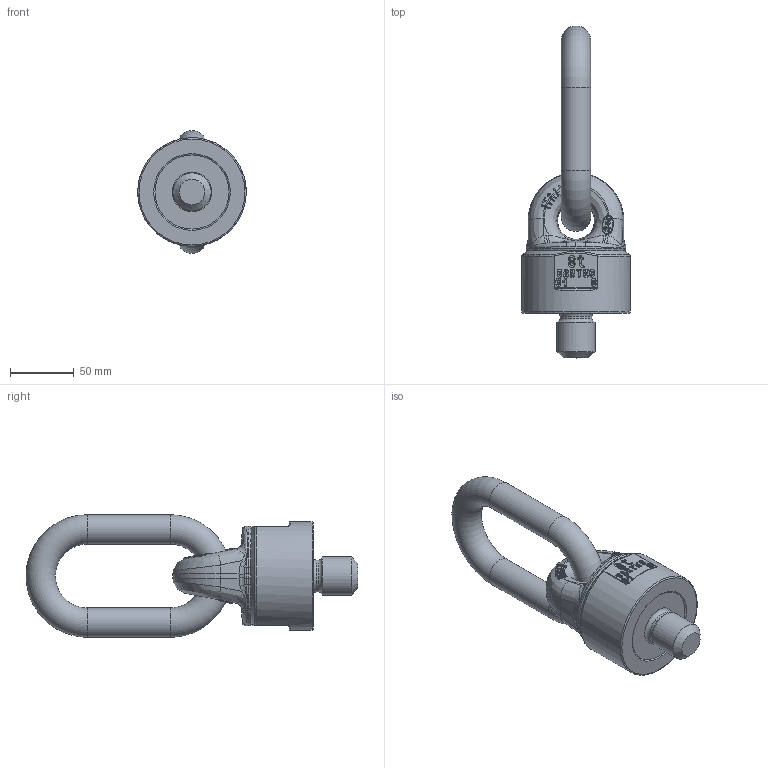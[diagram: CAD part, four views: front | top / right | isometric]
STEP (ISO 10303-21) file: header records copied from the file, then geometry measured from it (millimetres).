
FILE_DESCRIPTION(/* description */ (''),/* implementation_level */ '2;1');
FILE_NAME(/* name */ 'C8000803035V.stp',/* time_stamp */ '2019-02-15T08:50:46+01:00',/* author */ (''),/* organization */ (''),/* preprocessor_version */ 'ST-DEVELOPER v16',/* originating_system */ 'SIEMENS PLM Software NX 11.0',/* authorisation */ '');
FILE_SCHEMA (('AUTOMOTIVE_DESIGN { 1 0 10303 214 3 1 1 1 }'));
Length unit declared in the file: millimetre
Products named in the file (1): ugii0F54C622yhwu
Bounding box: 85 x 259.98 x 96 mm (x, y, z)
Volume: 554792.3 mm3; surface area: 72676.1 mm2
Topology: 3 solids, 3 shells, 784 faces, 2258 edges, 1709 vertices
Faces by surface type: bspline 268, cylinder 233, plane 214, torus 35, sphere 27, cone 7
Full cylindrical faces by diameter (mm): 23 x2, 25 x1, 29 x1, 30 x1, 85 x1
Entity records: 38686 total; most frequent: CARTESIAN_POINT 21064, ORIENTED_EDGE 3782, DIRECTION 2762, EDGE_CURVE 1891, VERTEX_POINT 1144, AXIS2_PLACEMENT_3D 1081, B_SPLINE_CURVE_WITH_KNOTS 1020, EDGE_LOOP 819
